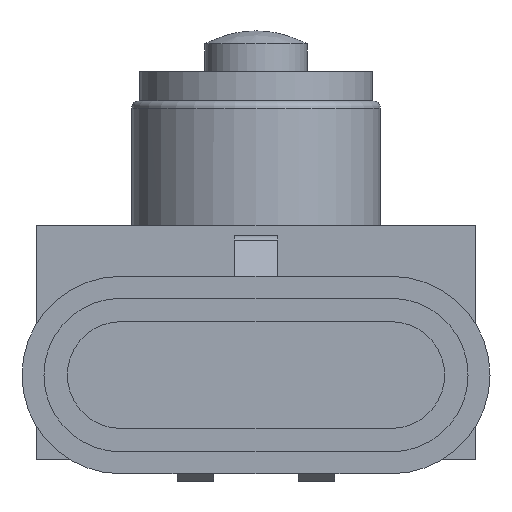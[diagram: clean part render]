
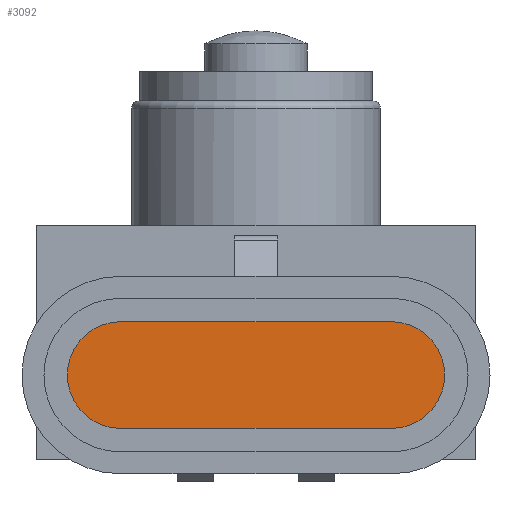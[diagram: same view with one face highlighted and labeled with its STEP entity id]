
A CAD part, front view. The second image highlights one B-rep face of the part: STEP entity #3092.
In plain terms, the highlighted planar face has unit normal (0, -1, 0) as drawn and (0, 0, -1) by its records, which use the part's own axes.
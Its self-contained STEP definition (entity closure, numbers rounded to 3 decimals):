
#147=LINE('',#4781,#443);
#151=LINE('',#4793,#447);
#443=VECTOR('',#3857,18.5);
#447=VECTOR('',#3869,18.5);
#666=PLANE('',#3330);
#836=FACE_OUTER_BOUND('',#1026,.T.);
#1026=EDGE_LOOP('',(#2307,#2308,#2309,#2310));
#1214=CIRCLE('',#3325,3.65);
#1216=CIRCLE('',#3329,3.65);
#1402=VERTEX_POINT('',#4778);
#1403=VERTEX_POINT('',#4780);
#1405=VERTEX_POINT('',#4786);
#1407=VERTEX_POINT('',#4792);
#1738=EDGE_CURVE('',#1403,#1402,#147,.T.);
#1741=EDGE_CURVE('',#1405,#1403,#1214,.T.);
#1744=EDGE_CURVE('',#1407,#1405,#151,.T.);
#1747=EDGE_CURVE('',#1402,#1407,#1216,.T.);
#2307=ORIENTED_EDGE('',*,*,#1741,.T.);
#2308=ORIENTED_EDGE('',*,*,#1738,.T.);
#2309=ORIENTED_EDGE('',*,*,#1747,.T.);
#2310=ORIENTED_EDGE('',*,*,#1744,.T.);
#3092=ADVANCED_FACE('',(#836),#666,.F.);
#3325=AXIS2_PLACEMENT_3D('',#4787,#3863,#3864);
#3329=AXIS2_PLACEMENT_3D('',#4797,#3875,#3876);
#3330=AXIS2_PLACEMENT_3D('',#4798,#3877,#3878);
#3857=DIRECTION('',(1.,0.,0.));
#3863=DIRECTION('center_axis',(0.,0.,-1.));
#3864=DIRECTION('ref_axis',(1.,0.,0.));
#3869=DIRECTION('',(-1.,0.,0.));
#3875=DIRECTION('center_axis',(0.,0.,-1.));
#3876=DIRECTION('ref_axis',(1.,0.,0.));
#3877=DIRECTION('center_axis',(0.,0.,1.));
#3878=DIRECTION('ref_axis',(1.,0.,0.));
#4778=CARTESIAN_POINT('',(9.25,-2.1,-60.5));
#4780=CARTESIAN_POINT('',(-9.25,-2.1,-60.5));
#4781=CARTESIAN_POINT('',(-9.25,-2.1,-60.5));
#4786=CARTESIAN_POINT('',(-9.25,-9.4,-60.5));
#4787=CARTESIAN_POINT('Origin',(-9.25,-5.75,-60.5));
#4792=CARTESIAN_POINT('',(9.25,-9.4,-60.5));
#4793=CARTESIAN_POINT('',(9.25,-9.4,-60.5));
#4797=CARTESIAN_POINT('Origin',(9.25,-5.75,-60.5));
#4798=CARTESIAN_POINT('Origin',(-9.25,-5.75,-60.5));
